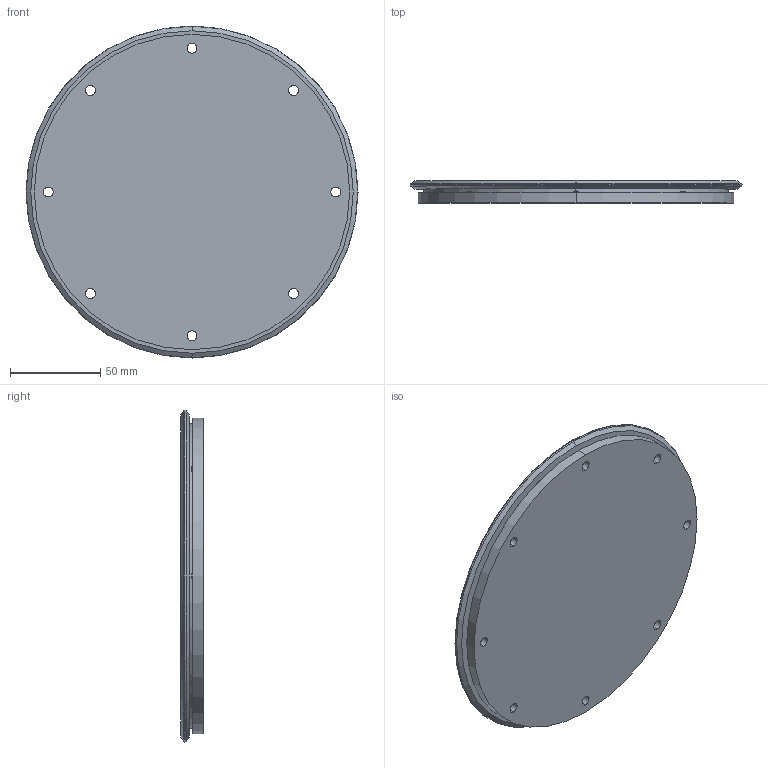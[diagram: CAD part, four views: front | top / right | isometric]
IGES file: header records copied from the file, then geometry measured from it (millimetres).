
Start section: 3D InterOp IGES (v. 2020 1.0.1), Spatial Corp. Copyright (c) 1999-2017.
Global section: file name: rd25_159_l.igs; native system: Spatial Corp.; preprocessor: 3D InterOp ACIS/IGES; author: TraceParts; organization: TraceParts S.A.; date: 20220622.101101; units: millimetre
Bounding box: 183.61 x 12.25 x 183.61 mm (x, y, z)
Surface area: 65695.1 mm2 (no closed solid volume)
Topology: 0 solids, 0 shells, 63 faces, 280 edges, 280 vertices
Faces by surface type: revolution 50, extrusion 13
